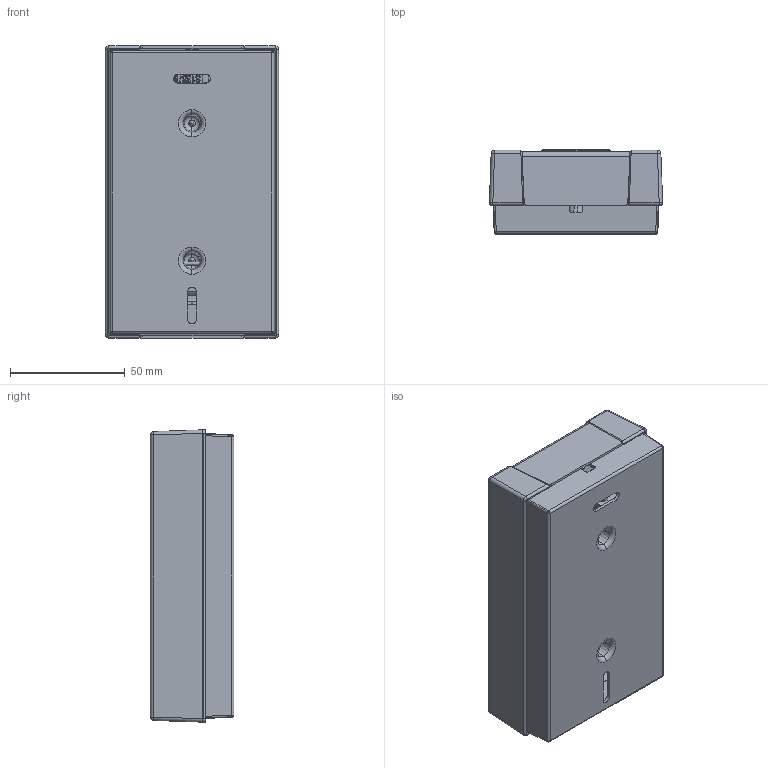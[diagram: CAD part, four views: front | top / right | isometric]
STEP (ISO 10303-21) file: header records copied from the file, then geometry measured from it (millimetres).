
FILE_DESCRIPTION (( 'STEP AP214' ), '1' );
FILE_NAME ('S10998-00001_Fingerscanner.STEP', '2024-01-31T10:51:25', ( '' ), ( '' ), 'SwSTEP 2.0', 'SolidWorks 2021', '' );
FILE_SCHEMA (( 'AUTOMOTIVE_DESIGN' ));
Length unit declared in the file: millimetre
Products named in the file (22): ENTRA_Klebestreifen_3M93017LE; 90680_Kernmodul; S10998-00001_Fingerscanner; 90689; 90681; 90688; 412_B_691412120002B; 90831; 50737_Blechschraube_ISO7050_A2_3,5x16; ENTRAsys SOMloq2 Main Board Rev5EW1; 90859; 90682_mit Taster; 90693; 90830; Entrasys_Platine_komplett_05012016; PCBS10196_FPS-B_Rev2EW1_Default<Wie bearbeitet>; Stecker_Wanne; 91919; 91917; 90691; 91860; 91918
Assembly tree (31 placements, depth 5):
  S10998-00001_Fingerscanner
    90681
    90682_mit Taster
    90693
      90680_Kernmodul
      90688  x4
      Entrasys_Platine_komplett_05012016
        ENTRAsys SOMloq2 Main Board Rev5EW1
        Stecker_Wanne
          412_B_691412120002B
          90859
        PCBS10196_FPS-B_Rev2EW1_Default<Wie bearbeitet>
      90689
    91918
      91917
      90691  x2
      ENTRA_Klebestreifen_3M93017LE  x2
    91860
    90830  x2
    90831  x4
    91919
    50737_Blechschraube_ISO7050_A2_3,5x16  x2
Bounding box: 75.61 x 36.55 x 127.61 mm (x, y, z)
Volume: 114640.7 mm3; surface area: 147876.2 mm2
Topology: 25 solids, 205 shells, 3255 faces, 8477 edges, 5515 vertices
Faces by surface type: plane 1897, cylinder 607, bspline 491, cone 110, torus 105, sphere 45
Entity records: 128911 total; most frequent: CARTESIAN_POINT 44482, ORIENTED_EDGE 14869, DIRECTION 13168, EDGE_CURVE 7957, VECTOR 5274, LINE 5274, VERTEX_POINT 5225, AXIS2_PLACEMENT_3D 3947
